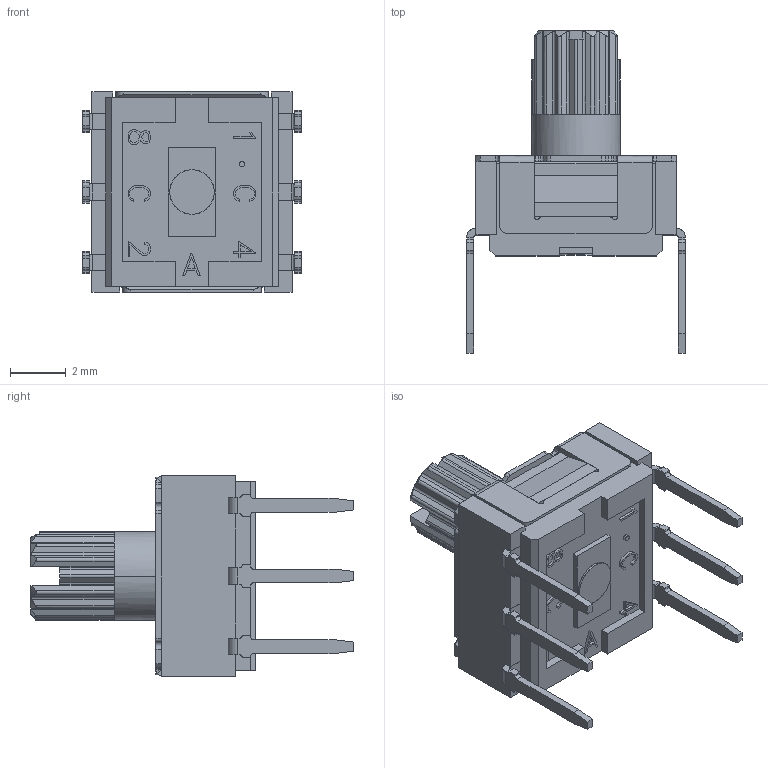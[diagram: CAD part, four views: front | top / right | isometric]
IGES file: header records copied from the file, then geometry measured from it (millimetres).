
Start section: SolidWorks IGES file using analytic representation for surfaces
Global section: file name: F:\0-¤u§@°Ï\RSH(20190527)\3D\RSH-3ARH.IGS; native system: SolidWorks 2017; preprocessor: SolidWorks 2017; author: austi; date: 190701.133013; units: millimetre
Bounding box: 7.87 x 11.6 x 7.2 mm (x, y, z)
Surface area: 713.5 mm2 (no closed solid volume)
Topology: 0 solids, 0 shells, 1295 faces, 10726 edges, 10726 vertices
Faces by surface type: bspline 916, revolution 379
